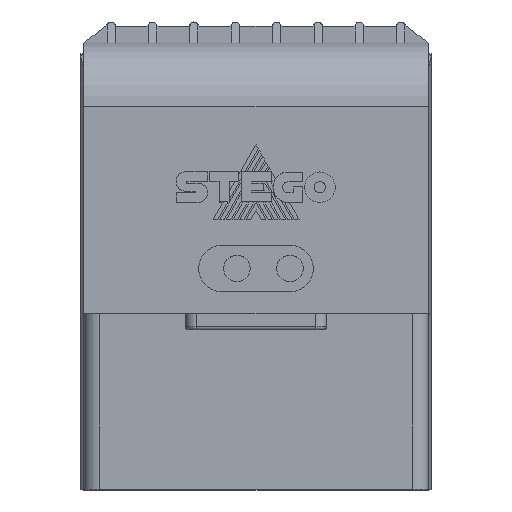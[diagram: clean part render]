
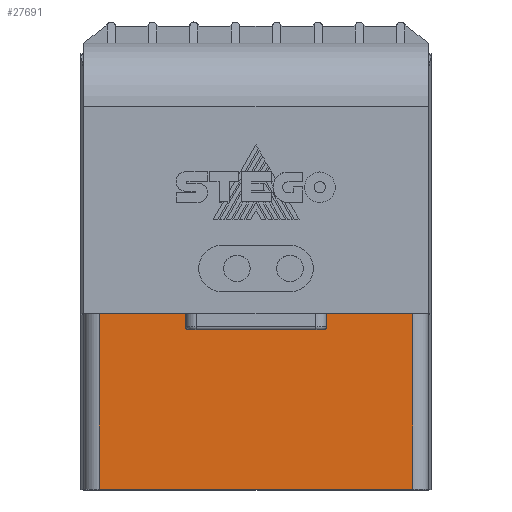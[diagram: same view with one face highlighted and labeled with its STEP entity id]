
A CAD part, top view. The second image highlights one B-rep face of the part: STEP entity #27691.
In plain terms, the highlighted planar face has unit normal (0, 0, 1).
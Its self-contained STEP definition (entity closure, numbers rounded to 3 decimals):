
#1544 = VECTOR ( 'NONE', #25502, 1000. ) ;
#2950 = LINE ( 'NONE', #9626, #17789 ) ;
#3347 = ORIENTED_EDGE ( 'NONE', *, *, #11580, .F. ) ;
#4872 = VERTEX_POINT ( 'NONE', #21541 ) ;
#7500 = LINE ( 'NONE', #10314, #37287 ) ;
#9370 = LINE ( 'NONE', #28351, #1544 ) ;
#9626 = CARTESIAN_POINT ( 'NONE',  ( 62.5, 5.25, 108. ) ) ;
#9898 = ORIENTED_EDGE ( 'NONE', *, *, #12099, .T. ) ;
#10314 = CARTESIAN_POINT ( 'NONE',  ( 0.357, -27.75, 108. ) ) ;
#11580 = EDGE_CURVE ( 'NONE', #32213, #4872, #9370, .T. ) ;
#11930 = EDGE_CURVE ( 'NONE', #32213, #28809, #20066, .T. ) ;
#12099 = EDGE_CURVE ( 'NONE', #28809, #28871, #7500, .T. ) ;
#12414 = CARTESIAN_POINT ( 'NONE',  ( 3.5, 5.25, 108. ) ) ;
#13040 = PLANE ( 'NONE',  #34893 ) ;
#13051 = CARTESIAN_POINT ( 'NONE',  ( 3.5, 5.25, 108. ) ) ;
#15414 = DIRECTION ( 'NONE',  ( 0., -1., 0. ) ) ;
#17789 = VECTOR ( 'NONE', #33484, 1000. ) ;
#19029 = DIRECTION ( 'NONE',  ( -1., 0., 0. ) ) ;
#19727 = CARTESIAN_POINT ( 'NONE',  ( 62.5, -27.75, 108. ) ) ;
#20066 = LINE ( 'NONE', #12414, #34981 ) ;
#20843 = ORIENTED_EDGE ( 'NONE', *, *, #11930, .T. ) ;
#21541 = CARTESIAN_POINT ( 'NONE',  ( 62.5, 5.25, 108. ) ) ;
#25221 = CARTESIAN_POINT ( 'NONE',  ( 3.5, -27.75, 108. ) ) ;
#25502 = DIRECTION ( 'NONE',  ( 1., 0., 0. ) ) ;
#27691 = ADVANCED_FACE ( 'NONE', ( #35408 ), #13040, .F. ) ;
#28351 = CARTESIAN_POINT ( 'NONE',  ( 0.357, 5.25, 108. ) ) ;
#28809 = VERTEX_POINT ( 'NONE', #25221 ) ;
#28871 = VERTEX_POINT ( 'NONE', #19727 ) ;
#32213 = VERTEX_POINT ( 'NONE', #13051 ) ;
#33484 = DIRECTION ( 'NONE',  ( 0., 1., 0. ) ) ;
#33883 = CARTESIAN_POINT ( 'NONE',  ( 0.357, 5.25, 108. ) ) ;
#34159 = DIRECTION ( 'NONE',  ( 1., 0., 0. ) ) ;
#34801 = EDGE_LOOP ( 'NONE', ( #3347, #20843, #9898, #36804 ) ) ;
#34893 = AXIS2_PLACEMENT_3D ( 'NONE', #33883, #36867, #19029 ) ;
#34981 = VECTOR ( 'NONE', #15414, 1000. ) ;
#35408 = FACE_OUTER_BOUND ( 'NONE', #34801, .T. ) ;
#35939 = EDGE_CURVE ( 'NONE', #28871, #4872, #2950, .T. ) ;
#36804 = ORIENTED_EDGE ( 'NONE', *, *, #35939, .T. ) ;
#36867 = DIRECTION ( 'NONE',  ( 0., 0., -1. ) ) ;
#37287 = VECTOR ( 'NONE', #34159, 1000. ) ;
